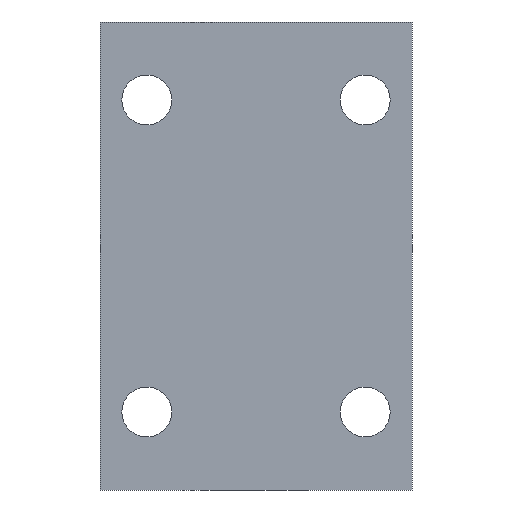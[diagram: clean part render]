
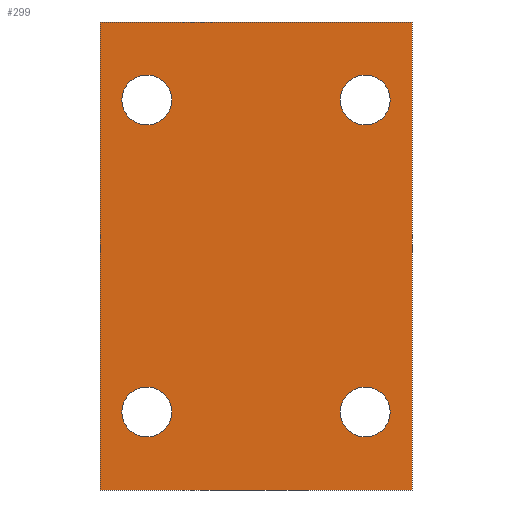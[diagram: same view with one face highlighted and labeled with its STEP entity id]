
A CAD part, front view. The second image highlights one B-rep face of the part: STEP entity #299.
In plain terms, the highlighted planar face has unit normal (0, -1, 0).
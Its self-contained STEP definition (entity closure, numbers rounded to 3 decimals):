
#27=LINE('',#470,#51);
#30=LINE('',#476,#54);
#31=LINE('',#478,#55);
#32=LINE('',#479,#56);
#51=VECTOR('',#392,30.);
#54=VECTOR('',#397,20.);
#55=VECTOR('',#398,30.);
#56=VECTOR('',#399,20.);
#75=PLANE('',#328);
#85=FACE_BOUND('',#130,.T.);
#86=FACE_BOUND('',#131,.T.);
#87=FACE_BOUND('',#132,.T.);
#88=FACE_BOUND('',#133,.T.);
#107=FACE_OUTER_BOUND('',#129,.T.);
#129=EDGE_LOOP('',(#249,#250,#251,#252));
#130=EDGE_LOOP('',(#253));
#131=EDGE_LOOP('',(#254));
#132=EDGE_LOOP('',(#255));
#133=EDGE_LOOP('',(#256));
#145=CIRCLE('',#308,1.6);
#147=CIRCLE('',#311,1.6);
#149=CIRCLE('',#314,1.6);
#151=CIRCLE('',#317,1.6);
#155=VERTEX_POINT('',#417);
#157=VERTEX_POINT('',#422);
#159=VERTEX_POINT('',#427);
#161=VERTEX_POINT('',#432);
#173=VERTEX_POINT('',#467);
#174=VERTEX_POINT('',#469);
#176=VERTEX_POINT('',#475);
#177=VERTEX_POINT('',#477);
#181=EDGE_CURVE('',#155,#155,#145,.T.);
#183=EDGE_CURVE('',#157,#157,#147,.T.);
#185=EDGE_CURVE('',#159,#159,#149,.T.);
#187=EDGE_CURVE('',#161,#161,#151,.T.);
#203=EDGE_CURVE('',#174,#173,#27,.T.);
#206=EDGE_CURVE('',#173,#176,#30,.T.);
#207=EDGE_CURVE('',#177,#176,#31,.T.);
#208=EDGE_CURVE('',#174,#177,#32,.T.);
#249=ORIENTED_EDGE('',*,*,#206,.T.);
#250=ORIENTED_EDGE('',*,*,#207,.F.);
#251=ORIENTED_EDGE('',*,*,#208,.F.);
#252=ORIENTED_EDGE('',*,*,#203,.T.);
#253=ORIENTED_EDGE('',*,*,#181,.T.);
#254=ORIENTED_EDGE('',*,*,#183,.T.);
#255=ORIENTED_EDGE('',*,*,#185,.T.);
#256=ORIENTED_EDGE('',*,*,#187,.T.);
#299=ADVANCED_FACE('',(#107,#85,#86,#87,#88),#75,.T.);
#308=AXIS2_PLACEMENT_3D('',#418,#339,#340);
#311=AXIS2_PLACEMENT_3D('',#423,#345,#346);
#314=AXIS2_PLACEMENT_3D('',#428,#351,#352);
#317=AXIS2_PLACEMENT_3D('',#433,#357,#358);
#328=AXIS2_PLACEMENT_3D('',#474,#395,#396);
#339=DIRECTION('center_axis',(0.,1.,0.));
#340=DIRECTION('ref_axis',(1.,0.,0.));
#345=DIRECTION('center_axis',(0.,1.,0.));
#346=DIRECTION('ref_axis',(1.,0.,0.));
#351=DIRECTION('center_axis',(0.,1.,0.));
#352=DIRECTION('ref_axis',(1.,0.,0.));
#357=DIRECTION('center_axis',(0.,1.,0.));
#358=DIRECTION('ref_axis',(1.,0.,0.));
#392=DIRECTION('',(0.,0.,1.));
#395=DIRECTION('center_axis',(0.,-1.,0.));
#396=DIRECTION('ref_axis',(0.,0.,-1.));
#397=DIRECTION('',(-1.,0.,0.));
#398=DIRECTION('',(0.,0.,1.));
#399=DIRECTION('',(-1.,0.,0.));
#417=CARTESIAN_POINT('',(8.6,-6.,5.));
#418=CARTESIAN_POINT('Origin',(7.,-6.,5.));
#422=CARTESIAN_POINT('',(-5.4,-6.,5.));
#423=CARTESIAN_POINT('Origin',(-7.,-6.,5.));
#427=CARTESIAN_POINT('',(8.6,-6.,25.));
#428=CARTESIAN_POINT('Origin',(7.,-6.,25.));
#432=CARTESIAN_POINT('',(-5.4,-6.,25.));
#433=CARTESIAN_POINT('Origin',(-7.,-6.,25.));
#467=CARTESIAN_POINT('',(10.,-6.,30.));
#469=CARTESIAN_POINT('',(10.,-6.,0.));
#470=CARTESIAN_POINT('',(10.,-6.,0.));
#474=CARTESIAN_POINT('Origin',(10.,-6.,0.));
#475=CARTESIAN_POINT('',(-10.,-6.,30.));
#476=CARTESIAN_POINT('',(10.,-6.,30.));
#477=CARTESIAN_POINT('',(-10.,-6.,0.));
#478=CARTESIAN_POINT('',(-10.,-6.,0.));
#479=CARTESIAN_POINT('',(10.,-6.,0.));
